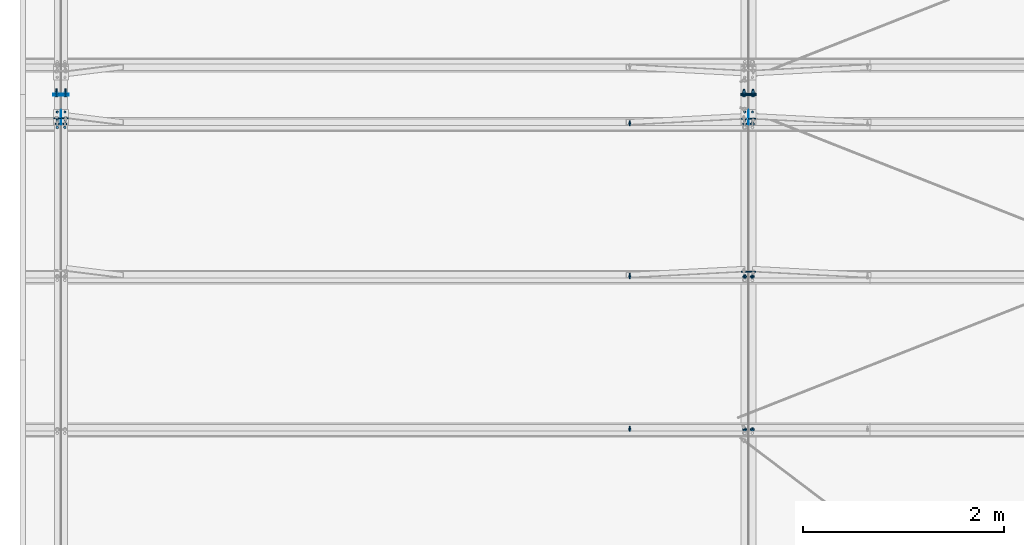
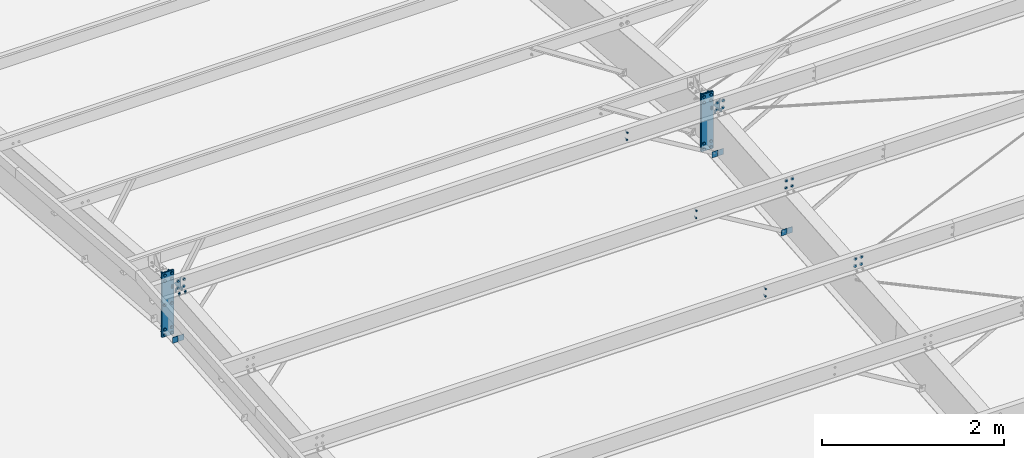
# One storey, part 70 of 185: 19 mechanical fasteners, 12 discrete accessories, 12 elements without a shape of their own.
"""IFC2X3 building model written with IfcOpenShell, lengths in millimetres."""

from ifc_helpers import new_model, si_unit, frame, origin_with_axes, origin_2d_with_axis, place, context, subcontext, project, spatial, polyline, rectangle, circle, outline, extrude, source, transform, mapped, material, type_object, element, aggregate, save


model = new_model("IFC2X3")

# Units and contexts
model_context = context("Model", 3, precision=1e-05, world=origin_with_axes())
body_context = subcontext(model_context, "Body", "Model", "MODEL_VIEW")
ifc_project = project(units=[si_unit("LENGTHUNIT", "METRE", prefix="MILLI"), si_unit("AREAUNIT", "SQUARE_METRE"), si_unit("VOLUMEUNIT", "CUBIC_METRE"), si_unit("MASSUNIT", "GRAM", prefix="KILO"), si_unit("TIMEUNIT", "SECOND"), si_unit("PLANEANGLEUNIT", "RADIAN"), si_unit("SOLIDANGLEUNIT", "STERADIAN"), si_unit("THERMODYNAMICTEMPERATUREUNIT", "DEGREE_CELSIUS"), si_unit("LUMINOUSINTENSITYUNIT", "LUMEN")], contexts=[model_context])

# Site, building, storey
site_placement = place(None, origin_with_axes())
site = spatial("IfcSite", under=ifc_project, at=site_placement, Name="Undefined", CompositionType="ELEMENT")
building_placement = place(site_placement, origin_with_axes())
building = spatial("IfcBuilding", under=site, at=building_placement, Name="Undefined", CompositionType="ELEMENT")
storey_placement = place(building_placement, origin_with_axes())
storey = spatial("IfcBuildingStorey", under=building, at=storey_placement, Name="Undefined", CompositionType="ELEMENT", Elevation=0.0)

# Assembly, mechanical fasteners
assembly_1_placement = place(storey_placement, origin_with_axes())
assembly_1 = element("IfcElementAssembly", 1, at=assembly_1_placement, inside=storey, Name="Steel Assembly", AssemblyPlace="NOTDEFINED", PredefinedType="RIGID_FRAME")
ifc_material_1 = material(Name="Undefined")
discrete_accessory_type_1 = type_object("IfcDiscreteAccessoryType", Name="Bolt assembly")
shared_shape_1 = source(origin_with_axes(), body_context, "Body", "SweptSolid", [
    extrude(circle(Radius=7.14374971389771, at=origin_2d_with_axis()), frame((0.0, -1.59000001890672, 0.0), z_axis=(0.0, 1.0, 0.0), x_axis=(1.0, 0.0, 0.0)), (0.0, 0.0, 1.0), 3.3),
    extrude(circle(Radius=13.4937496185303, at=origin_2d_with_axis()), frame((0.0, -5.5587500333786, 0.0), z_axis=(0.0, 1.0, 0.0), x_axis=(1.0, 0.0, 0.0)), (0.0, 0.0, 1.0), 4.0),
    extrude(circle(Radius=22.2250003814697, at=origin_2d_with_axis()), frame((0.0, 1.5900000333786, 0.0), z_axis=(0.0, 1.0, 0.0), x_axis=(1.0, 0.0, 0.0)), (0.0, 0.0, 1.0), 7.9),
    extrude(outline(polyline([(12.8316099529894, 0.0), (6.4158049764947, 11.1125001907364), (-6.4158049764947, 11.1125001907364), (-12.8316099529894, 0.0), (-6.4158049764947, -11.1125001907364), (6.4158049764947, -11.1125001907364), (12.8316099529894, 0.0)])), frame((0.0, 9.5275000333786, 0.0), z_axis=(0.0, 1.0, 0.0), x_axis=(1.0, 0.0, 0.0)), (0.0, 0.0, 1.0), 12.3),
])
mechanical_fastener_1_placement = place(assembly_1_placement, frame((444.500000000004, 15702.4719876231, 7353.56325125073), z_axis=(1.0, 0.0, 0.0), x_axis=(0.0, 0.0830454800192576, -0.996545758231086)))
mechanical_fastener_1 = element("IfcMechanicalFastener", 2, at=mechanical_fastener_1_placement, type_object=discrete_accessory_type_1, material=ifc_material_1, Name="Bolt assembly", NominalDiameter=12.6999998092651, NominalLength=38.0999984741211, context=body_context, shape_type="MappedRepresentation", body=[
    mapped(shared_shape_1, transform((0.0, 0.0, 0.0))),
    mapped(shared_shape_1, transform((101.599998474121, 0.0, 0.0))),
])
mechanical_fastener_2_placement = place(assembly_1_placement, frame((368.300000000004, 15702.4719876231, 7353.56325125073), z_axis=(1.0, 0.0, 0.0), x_axis=(0.0, 0.0830454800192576, -0.996545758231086)))
mechanical_fastener_2 = element("IfcMechanicalFastener", 3, at=mechanical_fastener_2_placement, type_object=discrete_accessory_type_1, material=ifc_material_1, Name="Bolt assembly", NominalDiameter=12.6999998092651, NominalLength=38.0999984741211, context=body_context, shape_type="MappedRepresentation", body=[
    mapped(shared_shape_1, transform((0.0, 0.0, 0.0))),
    mapped(shared_shape_1, transform((101.599998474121, 0.0, 0.0))),
])
mechanical_fastener_3_placement = place(assembly_1_placement, frame((7277.1, 15702.4719876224, 7353.56325123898), z_axis=(1.0, 0.0, 0.0), x_axis=(0.0, 0.0830454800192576, -0.996545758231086)))
mechanical_fastener_3 = element("IfcMechanicalFastener", 4, at=mechanical_fastener_3_placement, type_object=discrete_accessory_type_1, material=ifc_material_1, Name="Bolt assembly", NominalDiameter=12.6999998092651, NominalLength=38.0999984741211, context=body_context, shape_type="MappedRepresentation", body=[
    mapped(shared_shape_1, transform((0.0, 0.0, 0.0))),
    mapped(shared_shape_1, transform((101.599998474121, 0.0, 0.0))),
])

# Assembly, mechanical fastener
assembly_2_placement = place(storey_placement, origin_with_axes())
assembly_2 = element("IfcElementAssembly", 5, at=assembly_2_placement, inside=storey, Name="Steel Assembly", AssemblyPlace="NOTDEFINED", PredefinedType="RIGID_FRAME")
mechanical_fastener_4_placement = place(assembly_2_placement, frame((7200.9, 15702.47198762, 7353.56325123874), z_axis=(1.0, 0.0, 0.0), x_axis=(0.0, 0.0830454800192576, -0.996545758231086)))
mechanical_fastener_4 = element("IfcMechanicalFastener", 6, at=mechanical_fastener_4_placement, type_object=discrete_accessory_type_1, material=ifc_material_1, Name="Bolt assembly", NominalDiameter=12.6999998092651, NominalLength=38.0999984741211, context=body_context, shape_type="MappedRepresentation", body=[
    mapped(shared_shape_1, transform((0.0, 0.0, 0.0))),
    mapped(shared_shape_1, transform((101.599998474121, 0.0, 0.0))),
])

assembly_3_placement = place(storey_placement, origin_with_axes())
assembly_3 = element("IfcElementAssembly", 7, at=assembly_3_placement, inside=storey, Name="Steel Assembly", AssemblyPlace="NOTDEFINED", PredefinedType="RIGID_FRAME")
mechanical_fastener_5_placement = place(assembly_3_placement, frame((7277.1, 14183.7362520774, 7227.00193968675), z_axis=(1.0, 0.0, 0.0), x_axis=(0.0, 0.0830454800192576, -0.996545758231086)))
mechanical_fastener_5 = element("IfcMechanicalFastener", 8, at=mechanical_fastener_5_placement, type_object=discrete_accessory_type_1, material=ifc_material_1, Name="Bolt assembly", NominalDiameter=12.6999998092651, NominalLength=38.0999984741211, context=body_context, shape_type="MappedRepresentation", body=[
    mapped(shared_shape_1, transform((0.0, 0.0, 0.0))),
    mapped(shared_shape_1, transform((101.599998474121, 0.0, 0.0))),
])
aggregate(assembly_3, [mechanical_fastener_5])

assembly_4_placement = place(storey_placement, origin_with_axes())
assembly_4 = element("IfcElementAssembly", 9, at=assembly_4_placement, inside=storey, Name="Steel Assembly", AssemblyPlace="NOTDEFINED", PredefinedType="RIGID_FRAME")
mechanical_fastener_6_placement = place(assembly_4_placement, frame((7200.9, 14183.7362520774, 7227.00193968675), z_axis=(1.0, 0.0, 0.0), x_axis=(0.0, 0.0830454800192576, -0.996545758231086)))
mechanical_fastener_6 = element("IfcMechanicalFastener", 10, at=mechanical_fastener_6_placement, type_object=discrete_accessory_type_1, material=ifc_material_1, Name="Bolt assembly", NominalDiameter=12.6999998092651, NominalLength=38.0999984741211, context=body_context, shape_type="MappedRepresentation", body=[
    mapped(shared_shape_1, transform((0.0, 0.0, 0.0))),
    mapped(shared_shape_1, transform((101.599998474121, 0.0, 0.0))),
])

assembly_5_placement = place(storey_placement, origin_with_axes())
assembly_5 = element("IfcElementAssembly", 11, at=assembly_5_placement, inside=storey, Name="Steel Assembly", AssemblyPlace="NOTDEFINED", PredefinedType="RIGID_FRAME")
mechanical_fastener_7_placement = place(assembly_5_placement, frame((7277.1, 12665.0005165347, 7100.44062813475), z_axis=(1.0, 0.0, 0.0), x_axis=(0.0, 0.0830454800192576, -0.996545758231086)))
mechanical_fastener_7 = element("IfcMechanicalFastener", 12, at=mechanical_fastener_7_placement, type_object=discrete_accessory_type_1, material=ifc_material_1, Name="Bolt assembly", NominalDiameter=12.6999998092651, NominalLength=38.0999984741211, context=body_context, shape_type="MappedRepresentation", body=[
    mapped(shared_shape_1, transform((0.0, 0.0, 0.0))),
    mapped(shared_shape_1, transform((101.599998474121, 0.0, 0.0))),
])
aggregate(assembly_5, [mechanical_fastener_7])

assembly_6_placement = place(storey_placement, origin_with_axes())
assembly_6 = element("IfcElementAssembly", 13, at=assembly_6_placement, inside=storey, Name="Steel Assembly", AssemblyPlace="NOTDEFINED", PredefinedType="RIGID_FRAME")
mechanical_fastener_8_placement = place(assembly_6_placement, frame((7200.9, 12665.0005165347, 7100.44062813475), z_axis=(1.0, 0.0, 0.0), x_axis=(0.0, 0.0830454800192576, -0.996545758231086)))
mechanical_fastener_8 = element("IfcMechanicalFastener", 14, at=mechanical_fastener_8_placement, type_object=discrete_accessory_type_1, material=ifc_material_1, Name="Bolt assembly", NominalDiameter=12.6999998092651, NominalLength=38.0999984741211, context=body_context, shape_type="MappedRepresentation", body=[
    mapped(shared_shape_1, transform((0.0, 0.0, 0.0))),
    mapped(shared_shape_1, transform((101.599998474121, 0.0, 0.0))),
])

# Assembly, discrete accessory
assembly_7_placement = place(storey_placement, origin_with_axes())
assembly_7 = element("IfcElementAssembly", 15, at=assembly_7_placement, inside=storey, Name="Steel Assembly", AssemblyPlace="NOTDEFINED", PredefinedType="RIGID_FRAME")
ifc_material_2 = material(Name="STEEL/55")
discrete_accessory_type_2 = type_object("IfcDiscreteAccessoryType", Name="PLATE")
discrete_accessory_1_placement = place(assembly_7_placement, frame((7239.0, 15853.8182223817, 7219.61919678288), z_axis=(-1.0, 0.0, 0.0), x_axis=(0.0, -0.996545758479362, -0.0830454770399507)))
discrete_accessory_1 = element("IfcDiscreteAccessory", 16, at=discrete_accessory_1_placement, type_object=discrete_accessory_type_2, material=ifc_material_2, Name="PLATE", ObjectType="FL1/4\"X5 1/4\"", context=body_context, shape_type="SweptSolid", body=[
    extrude(outline(polyline([(0.0, 0.0), (133.350006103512, 3.70164343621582e-10), (133.350006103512, 190.500000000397), (0.0, 0.0)])), frame((0.0, -9.09494701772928e-13, -3.2), z_axis=(0.0, 0.0, 1.0), x_axis=(1.0, 0.0, 0.0)), (0.0, 0.0, 1.0), 6.4),
])

assembly_8_placement = place(storey_placement, origin_with_axes())
assembly_8 = element("IfcElementAssembly", 17, at=assembly_8_placement, inside=storey, Name="Steel Assembly", AssemblyPlace="NOTDEFINED", PredefinedType="RIGID_FRAME")
discrete_accessory_2_placement = place(assembly_8_placement, frame((406.400000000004, 15853.8182223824, 7219.61919679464), z_axis=(-1.0, 0.0, 0.0), x_axis=(0.0, -0.996545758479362, -0.0830454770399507)))
discrete_accessory_2 = element("IfcDiscreteAccessory", 18, at=discrete_accessory_2_placement, type_object=discrete_accessory_type_2, material=ifc_material_2, Name="PLATE", ObjectType="FL1/4\"X5 1/4\"", context=body_context, shape_type="SweptSolid", body=[
    extrude(outline(polyline([(0.0, 0.0), (133.350006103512, 3.70164343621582e-10), (133.350006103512, 190.500000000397), (0.0, 0.0)])), frame((0.0, -9.09494701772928e-13, -3.2), z_axis=(0.0, 0.0, 1.0), x_axis=(1.0, 0.0, 0.0)), (0.0, 0.0, 1.0), 6.4),
])

# Assembly, discrete accessories
assembly_9_placement = place(storey_placement, origin_with_axes())
assembly_9 = element("IfcElementAssembly", 19, at=assembly_9_placement, inside=storey, Name="Steel Assembly", AssemblyPlace="NOTDEFINED", PredefinedType="RIGID_FRAME")
discrete_accessory_type_3 = type_object("IfcDiscreteAccessoryType", Name="FLANGE BRACE FLIP")
discrete_accessory_3_placement = place(assembly_9_placement, frame((408.108150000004, 15769.4557659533, 6529.19086765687), z_axis=(0.0, -0.0830454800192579, 0.996545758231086), x_axis=(1.0, 0.0, 0.0)))
discrete_accessory_3 = element("IfcDiscreteAccessory", 20, at=discrete_accessory_3_placement, type_object=discrete_accessory_type_3, material=ifc_material_2, Name="FLANGE BRACE FLIP", ObjectType="PL1/8\"X2 3/4\"", context=body_context, shape_type="SweptSolid", body=[
    extrude(rectangle(XDim=3.416, YDim=85.725, at=origin_2d_with_axis()), frame((69.8499999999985, 0.0, 0.0), z_axis=(-1.0, 0.0, 0.0), x_axis=(0.0, -1.0, 0.0)), (0.0, 0.0, 1.0), 69.9),
])
discrete_accessory_4_placement = place(assembly_9_placement, frame((404.691850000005, 15769.4557659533, 6529.19086765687), z_axis=(0.0, -0.0830454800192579, 0.996545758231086), x_axis=(-1.0, 0.0, 0.0)))
discrete_accessory_4 = element("IfcDiscreteAccessory", 21, at=discrete_accessory_4_placement, type_object=discrete_accessory_type_3, material=ifc_material_2, Name="FLANGE BRACE FLIP", ObjectType="PL1/8\"X2 3/4\"", context=body_context, shape_type="SweptSolid", body=[
    extrude(rectangle(XDim=3.416, YDim=85.725, at=origin_2d_with_axis()), frame((69.8499999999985, 0.0, 0.0), z_axis=(-1.0, 0.0, 0.0), x_axis=(0.0, -1.0, 0.0)), (0.0, 0.0, 1.0), 69.9),
])

assembly_10_placement = place(storey_placement, origin_with_axes())
assembly_10 = element("IfcElementAssembly", 22, at=assembly_10_placement, inside=storey, Name="Steel Assembly", AssemblyPlace="NOTDEFINED", PredefinedType="RIGID_FRAME")
discrete_accessory_5_placement = place(assembly_10_placement, frame((7240.70815, 15761.1512342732, 6628.84524774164), z_axis=(0.0, -0.0830454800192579, 0.996545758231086), x_axis=(1.0, 0.0, 0.0)))
discrete_accessory_5 = element("IfcDiscreteAccessory", 23, at=discrete_accessory_5_placement, type_object=discrete_accessory_type_3, material=ifc_material_2, Name="FLANGE BRACE FLIP", ObjectType="PL1/8\"X2 3/4\"", context=body_context, shape_type="SweptSolid", body=[
    extrude(rectangle(XDim=3.416, YDim=85.725, at=origin_2d_with_axis()), frame((69.8499999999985, 0.0, 0.0), z_axis=(-1.0, 0.0, 0.0), x_axis=(0.0, -1.0, 0.0)), (0.0, 0.0, 1.0), 69.9),
])
discrete_accessory_6_placement = place(assembly_10_placement, frame((7237.29185, 15761.1512342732, 6628.84524774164), z_axis=(0.0, -0.0830454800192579, 0.996545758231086), x_axis=(-1.0, 0.0, 0.0)))
discrete_accessory_6 = element("IfcDiscreteAccessory", 24, at=discrete_accessory_6_placement, type_object=discrete_accessory_type_3, material=ifc_material_2, Name="FLANGE BRACE FLIP", ObjectType="PL1/8\"X2 3/4\"", context=body_context, shape_type="SweptSolid", body=[
    extrude(rectangle(XDim=3.416, YDim=85.725, at=origin_2d_with_axis()), frame((69.8499999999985, 0.0, 0.0), z_axis=(-1.0, 0.0, 0.0), x_axis=(0.0, -1.0, 0.0)), (0.0, 0.0, 1.0), 69.9),
])
discrete_accessory_7_placement = place(assembly_10_placement, frame((7240.70815, 14242.4154987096, 6502.28393644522), z_axis=(0.0, -0.0830454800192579, 0.996545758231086), x_axis=(1.0, 0.0, 0.0)))
discrete_accessory_7 = element("IfcDiscreteAccessory", 25, at=discrete_accessory_7_placement, type_object=discrete_accessory_type_3, material=ifc_material_2, Name="FLANGE BRACE FLIP", ObjectType="PL1/8\"X2 3/4\"", context=body_context, shape_type="SweptSolid", body=[
    extrude(rectangle(XDim=3.416, YDim=85.725, at=origin_2d_with_axis()), frame((69.8499999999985, 0.0, 0.0), z_axis=(-1.0, 0.0, 0.0), x_axis=(0.0, -1.0, 0.0)), (0.0, 0.0, 1.0), 69.9),
])
discrete_accessory_8_placement = place(assembly_10_placement, frame((7237.29185, 14242.4154987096, 6502.28393644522), z_axis=(0.0, -0.0830454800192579, 0.996545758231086), x_axis=(-1.0, 0.0, 0.0)))
discrete_accessory_8 = element("IfcDiscreteAccessory", 26, at=discrete_accessory_8_placement, type_object=discrete_accessory_type_3, material=ifc_material_2, Name="FLANGE BRACE FLIP", ObjectType="PL1/8\"X2 3/4\"", context=body_context, shape_type="SweptSolid", body=[
    extrude(rectangle(XDim=3.416, YDim=85.725, at=origin_2d_with_axis()), frame((69.8499999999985, 0.0, 0.0), z_axis=(-1.0, 0.0, 0.0), x_axis=(0.0, -1.0, 0.0)), (0.0, 0.0, 1.0), 69.9),
])

# Mechanical fastener
shared_shape_2 = source(origin_with_axes(), body_context, "Body", "SweptSolid", [
    extrude(circle(Radius=7.14374971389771, at=origin_2d_with_axis()), frame((0.0, -1.69000003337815, 0.0), z_axis=(0.0, 1.0, 0.0), x_axis=(1.0, 0.0, 0.0)), (0.0, 0.0, 1.0), 3.3),
    extrude(circle(Radius=7.14374971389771, at=origin_2d_with_axis()), frame((0.0, -1.4900000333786, 0.0), z_axis=(0.0, 1.0, 0.0), x_axis=(1.0, 0.0, 0.0)), (0.0, 0.0, 1.0), 3.2),
    extrude(outline(polyline([(10.9985221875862, 0.0), (5.4992610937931, 9.52499961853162), (-5.4992610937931, 9.52499961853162), (-10.9985221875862, 0.0), (-5.4992610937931, -9.52499961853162), (5.4992610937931, -9.52499961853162), (10.9985221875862, 0.0)])), frame((0.0, -11.1149996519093, 0.0), z_axis=(0.0, 1.0, 0.0), x_axis=(1.0, 0.0, 0.0)), (0.0, 0.0, 1.0), 9.5),
    extrude(circle(Radius=6.34999990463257, at=origin_2d_with_axis()), frame((0.0, -1.59000001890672, 0.0), z_axis=(0.0, 1.0, 0.0), x_axis=(1.0, 0.0, 0.0)), (0.0, 0.0, 1.0), 38.1),
    extrude(outline(polyline([(12.8316099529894, 0.0), (6.4158049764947, 11.1125001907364), (-6.4158049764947, 11.1125001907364), (-12.8316099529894, 0.0), (-6.4158049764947, -11.1125001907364), (6.4158049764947, -11.1125001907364), (12.8316099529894, 0.0)])), frame((0.0, 1.5900000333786, 0.0), z_axis=(0.0, 1.0, 0.0), x_axis=(1.0, 0.0, 0.0)), (0.0, 0.0, 1.0), 12.3),
])
mechanical_fastener_9_placement = place(assembly_2_placement, frame((6057.9, 15702.4719876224, 7353.56325123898), z_axis=(1.0, 0.0, 0.0), x_axis=(0.0, 0.0830454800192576, -0.996545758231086)))
mechanical_fastener_9 = element("IfcMechanicalFastener", 27, at=mechanical_fastener_9_placement, type_object=discrete_accessory_type_1, material=ifc_material_1, Name="Bolt assembly", NominalDiameter=12.6999998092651, NominalLength=38.0999984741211, context=body_context, shape_type="MappedRepresentation", body=[
    mapped(shared_shape_2, transform((0.0, 0.0, 0.0))),
    mapped(shared_shape_2, transform((101.599998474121, 0.0, 0.0))),
])

aggregate(assembly_2, [mechanical_fastener_9, mechanical_fastener_4])

mechanical_fastener_10_placement = place(assembly_6_placement, frame((6057.9, 12665.0005165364, 7100.44062813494), z_axis=(1.0, 0.0, 0.0), x_axis=(0.0, 0.0830454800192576, -0.996545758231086)))
mechanical_fastener_10 = element("IfcMechanicalFastener", 28, at=mechanical_fastener_10_placement, type_object=discrete_accessory_type_1, material=ifc_material_1, Name="Bolt assembly", NominalDiameter=12.6999998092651, NominalLength=38.0999984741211, context=body_context, shape_type="MappedRepresentation", body=[
    mapped(shared_shape_2, transform((0.0, 0.0, 0.0))),
    mapped(shared_shape_2, transform((101.599998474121, 0.0, 0.0))),
])

aggregate(assembly_6, [mechanical_fastener_10, mechanical_fastener_8])

mechanical_fastener_11_placement = place(assembly_4_placement, frame((6057.9, 14183.7362520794, 7227.00193968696), z_axis=(1.0, 0.0, 0.0), x_axis=(0.0, 0.0830454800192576, -0.996545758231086)))
mechanical_fastener_11 = element("IfcMechanicalFastener", 29, at=mechanical_fastener_11_placement, type_object=discrete_accessory_type_1, material=ifc_material_1, Name="Bolt assembly", NominalDiameter=12.6999998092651, NominalLength=38.0999984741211, context=body_context, shape_type="MappedRepresentation", body=[
    mapped(shared_shape_2, transform((0.0, 0.0, 0.0))),
    mapped(shared_shape_2, transform((101.599998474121, 0.0, 0.0))),
])

aggregate(assembly_4, [mechanical_fastener_11, mechanical_fastener_6])

shared_shape_3 = source(origin_with_axes(), body_context, "Body", "SweptSolid", [
    extrude(circle(Radius=7.14374971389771, at=origin_2d_with_axis()), frame((0.0, -0.0238014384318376, 0.0), z_axis=(0.0, 1.0, 0.0), x_axis=(1.0, 0.0, 0.0)), (0.0, 0.0, 1.0), 8.0),
    extrude(circle(Radius=7.14374971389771, at=origin_2d_with_axis()), frame((0.0, -6.24999999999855, 0.0), z_axis=(0.0, 1.0, 0.0), x_axis=(1.0, 0.0, 0.0)), (0.0, 0.0, 1.0), 6.4),
    extrude(outline(polyline([(10.9985221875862, 0.0), (5.4992610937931, 9.52499961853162), (-5.4992610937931, 9.52499961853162), (-10.9985221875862, 0.0), (-5.4992610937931, -9.52499961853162), (5.4992610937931, -9.52499961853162), (10.9985221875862, 0.0)])), frame((0.0, -15.8750000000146, 0.0), z_axis=(0.0, 1.0, 0.0), x_axis=(1.0, 0.0, 0.0)), (0.0, 0.0, 1.0), 9.5),
    extrude(circle(Radius=6.34999990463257, at=origin_2d_with_axis()), frame((0.0, -6.34999953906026, 0.0), z_axis=(0.0, 1.0, 0.0), x_axis=(1.0, 0.0, 0.0)), (0.0, 0.0, 1.0), 38.1),
    extrude(outline(polyline([(12.8316099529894, 0.0), (6.4158049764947, 11.1125001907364), (-6.4158049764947, 11.1125001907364), (-12.8316099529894, 0.0), (-6.4158049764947, -11.1125001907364), (6.4158049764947, -11.1125001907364), (12.8316099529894, 0.0)])), frame((0.0, 7.95019856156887, 0.0), z_axis=(0.0, 1.0, 0.0), x_axis=(1.0, 0.0, 0.0)), (0.0, 0.0, 1.0), 12.3),
])
mechanical_fastener_12_placement = place(assembly_7_placement, frame((7239.0, 15753.0965121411, 7204.85371046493), z_axis=(-1.0, 0.0, 0.0), x_axis=(0.0, 0.996545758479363, 0.0830454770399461)))
mechanical_fastener_12 = element("IfcMechanicalFastener", 30, at=mechanical_fastener_12_placement, type_object=discrete_accessory_type_1, material=ifc_material_1, Name="Bolt assembly", NominalDiameter=12.6999998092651, NominalLength=38.0999984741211, context=body_context, shape_type="MappedRepresentation", body=[
    mapped(shared_shape_3, transform((0.0, 0.0, -38.0999984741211))),
    mapped(shared_shape_3, transform((76.1999969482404, -1.38243194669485e-10, -38.0999984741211))),
    mapped(shared_shape_3, transform((0.0, 0.0, 38.0999984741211))),
    mapped(shared_shape_3, transform((76.1999969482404, -1.38243194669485e-10, 38.0999984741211))),
])

aggregate(assembly_7, [mechanical_fastener_12, discrete_accessory_1])

shared_shape_4 = source(origin_with_axes(), body_context, "Body", "SweptSolid", [
    extrude(circle(Radius=10.3187494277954, at=origin_2d_with_axis()), frame((0.0, -0.1, 0.0), z_axis=(0.0, 1.0, 0.0), x_axis=(1.0, 0.0, 0.0)), (0.0, 0.0, 1.0), 9.6),
    extrude(circle(Radius=10.3187494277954, at=origin_2d_with_axis()), frame((0.0, -9.42500000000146, 0.0), z_axis=(0.0, 1.0, 0.0), x_axis=(1.0, 0.0, 0.0)), (0.0, 0.0, 1.0), 9.5),
    extrude(outline(polyline([(18.3308710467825, 0.0), (9.16543552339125, 15.8750000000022), (-9.16543552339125, 15.8750000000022), (-18.3308710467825, 0.0), (-9.16543552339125, -15.8750000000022), (9.16543552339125, -15.8750000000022), (18.3308710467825, 0.0)])), frame((0.0, -21.4312500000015, 0.0), z_axis=(0.0, 1.0, 0.0), x_axis=(1.0, 0.0, 0.0)), (0.0, 0.0, 1.0), 11.9),
    extrude(circle(Radius=9.52499961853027, at=origin_2d_with_axis()), frame((0.0, -9.52499961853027, 0.0), z_axis=(0.0, 1.0, 0.0), x_axis=(1.0, 0.0, 0.0)), (0.0, 0.0, 1.0), 69.8),
    extrude(circle(Radius=22.2250003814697, at=origin_2d_with_axis()), frame((0.0, 9.52499999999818, 0.0), z_axis=(0.0, 1.0, 0.0), x_axis=(1.0, 0.0, 0.0)), (0.0, 0.0, 1.0), 7.9),
    extrude(outline(polyline([(18.3308710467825, 0.0), (9.16543552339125, 15.8750000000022), (-9.16543552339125, 15.8750000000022), (-18.3308710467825, 0.0), (-9.16543552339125, -15.8750000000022), (9.16543552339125, -15.8750000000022), (18.3308710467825, 0.0)])), frame((0.0, 17.4624999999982, 0.0), z_axis=(0.0, 1.0, 0.0), x_axis=(1.0, 0.0, 0.0)), (0.0, 0.0, 1.0), 19.0),
])
mechanical_fastener_13_placement = place(assembly_9_placement, frame((406.400000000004, 16001.9999999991, 6862.03615600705), z_axis=(1.0, 0.0, 0.0), x_axis=(0.0, 0.0, -1.0)))
mechanical_fastener_13 = element("IfcMechanicalFastener", 31, at=mechanical_fastener_13_placement, type_object=discrete_accessory_type_1, material=ifc_material_1, Name="Bolt assembly", NominalDiameter=19.0499992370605, NominalLength=69.8499984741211, context=body_context, shape_type="MappedRepresentation", body=[
    mapped(shared_shape_4, transform((0.0, 0.0, -44.4500007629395))),
    mapped(shared_shape_4, transform((0.0, 0.0, 44.4500007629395))),
])

mechanical_fastener_14_placement = place(assembly_9_placement, frame((406.400000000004, 16001.9999999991, 6463.57365598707), z_axis=(-1.0, 0.0, 0.0), x_axis=(0.0, 0.0, 1.0)))
mechanical_fastener_14 = element("IfcMechanicalFastener", 32, at=mechanical_fastener_14_placement, type_object=discrete_accessory_type_1, material=ifc_material_1, Name="Bolt assembly", NominalDiameter=19.0499992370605, NominalLength=69.8499984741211, context=body_context, shape_type="MappedRepresentation", body=[
    mapped(shared_shape_4, transform((0.0, 0.0, -44.4500007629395))),
    mapped(shared_shape_4, transform((73.0250015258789, 0.0, -44.4500007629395))),
    mapped(shared_shape_4, transform((0.0, 0.0, 44.4500007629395))),
    mapped(shared_shape_4, transform((73.0250015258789, 0.0, 44.4500007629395))),
])

mechanical_fastener_15_placement = place(assembly_9_placement, frame((406.400000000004, 16001.9999999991, 7260.49865600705), z_axis=(1.0, 0.0, 0.0), x_axis=(0.0, 0.0, -1.0)))
mechanical_fastener_15 = element("IfcMechanicalFastener", 33, at=mechanical_fastener_15_placement, type_object=discrete_accessory_type_1, material=ifc_material_1, Name="Bolt assembly", NominalDiameter=19.0499992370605, NominalLength=69.8499984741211, context=body_context, shape_type="MappedRepresentation", body=[
    mapped(shared_shape_4, transform((0.0, 0.0, -44.4500007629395))),
    mapped(shared_shape_4, transform((73.0250015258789, 0.0, -44.4500007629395))),
    mapped(shared_shape_4, transform((0.0, 0.0, 44.4500007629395))),
    mapped(shared_shape_4, transform((73.0250015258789, 0.0, 44.4500007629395))),
])

shared_shape_5 = source(origin_with_axes(), body_context, "Body", "SweptSolid", [
    extrude(circle(Radius=10.3187494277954, at=origin_2d_with_axis()), frame((0.0, -0.1, 0.0), z_axis=(0.0, 1.0, 0.0), x_axis=(1.0, 0.0, 0.0)), (0.0, 0.0, 1.0), 12.8),
    extrude(circle(Radius=10.3187494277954, at=origin_2d_with_axis()), frame((0.0, -12.5999999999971, 0.0), z_axis=(0.0, 1.0, 0.0), x_axis=(1.0, 0.0, 0.0)), (0.0, 0.0, 1.0), 12.7),
    extrude(outline(polyline([(18.3308710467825, 0.0), (9.16543552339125, 15.8750000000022), (-9.16543552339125, 15.8750000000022), (-18.3308710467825, 0.0), (-9.16543552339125, -15.8750000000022), (9.16543552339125, -15.8750000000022), (18.3308710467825, 0.0)])), frame((0.0, -24.6062499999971, 0.0), z_axis=(0.0, 1.0, 0.0), x_axis=(1.0, 0.0, 0.0)), (0.0, 0.0, 1.0), 11.9),
    extrude(circle(Radius=9.52499961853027, at=origin_2d_with_axis()), frame((0.0, -12.6999999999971, 0.0), z_axis=(0.0, 1.0, 0.0), x_axis=(1.0, 0.0, 0.0)), (0.0, 0.0, 1.0), 69.8),
    extrude(circle(Radius=22.2250003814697, at=origin_2d_with_axis()), frame((0.0, 12.6999999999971, 0.0), z_axis=(0.0, 1.0, 0.0), x_axis=(1.0, 0.0, 0.0)), (0.0, 0.0, 1.0), 7.9),
    extrude(outline(polyline([(18.3308710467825, 0.0), (9.16543552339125, 15.8750000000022), (-9.16543552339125, 15.8750000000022), (-18.3308710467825, 0.0), (-9.16543552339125, -15.8750000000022), (9.16543552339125, -15.8750000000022), (18.3308710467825, 0.0)])), frame((0.0, 20.6374999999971, 0.0), z_axis=(0.0, 1.0, 0.0), x_axis=(1.0, 0.0, 0.0)), (0.0, 0.0, 1.0), 19.0),
])
mechanical_fastener_16_placement = place(assembly_10_placement, frame((7239.0, 16001.9999999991, 6561.9804128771), z_axis=(-1.0, 0.0, 0.0), x_axis=(0.0, 0.0, 1.0)))
mechanical_fastener_16 = element("IfcMechanicalFastener", 34, at=mechanical_fastener_16_placement, type_object=discrete_accessory_type_1, material=ifc_material_1, Name="Bolt assembly", NominalDiameter=19.0499992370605, NominalLength=69.8499984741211, context=body_context, shape_type="MappedRepresentation", body=[
    mapped(shared_shape_5, transform((0.0, 0.0, -44.4500007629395))),
    mapped(shared_shape_5, transform((76.1999969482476, 0.0, -44.4500007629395))),
    mapped(shared_shape_5, transform((0.0, 0.0, 44.4500007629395))),
    mapped(shared_shape_5, transform((76.1999969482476, 0.0, 44.4500007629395))),
])

mechanical_fastener_17_placement = place(assembly_10_placement, frame((7239.0, 16001.9999999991, 7262.06791218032), z_axis=(1.0, 0.0, 0.0), x_axis=(0.0, 0.0, -1.0)))
mechanical_fastener_17 = element("IfcMechanicalFastener", 35, at=mechanical_fastener_17_placement, type_object=discrete_accessory_type_1, material=ifc_material_1, Name="Bolt assembly", NominalDiameter=19.0499992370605, NominalLength=69.8499984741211, context=body_context, shape_type="MappedRepresentation", body=[
    mapped(shared_shape_5, transform((0.0, 0.0, -44.4500007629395))),
    mapped(shared_shape_5, transform((76.1999969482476, 0.0, -44.4500007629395))),
    mapped(shared_shape_5, transform((0.0, 0.0, 44.4500007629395))),
    mapped(shared_shape_5, transform((76.1999969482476, 0.0, 44.4500007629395))),
])

shared_shape_6 = source(origin_with_axes(), body_context, "Body", "SweptSolid", [
    extrude(circle(Radius=7.14374971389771, at=origin_2d_with_axis()), frame((0.0, -0.1, 0.0), z_axis=(0.0, 1.0, 0.0), x_axis=(1.0, 0.0, 0.0)), (0.0, 0.0, 1.0), 6.5),
    extrude(circle(Radius=7.14374971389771, at=origin_2d_with_axis()), frame((0.0, -6.24999999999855, 0.0), z_axis=(0.0, 1.0, 0.0), x_axis=(1.0, 0.0, 0.0)), (0.0, 0.0, 1.0), 6.4),
    extrude(outline(polyline([(10.9985221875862, 0.0), (5.4992610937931, 9.52499961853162), (-5.4992610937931, 9.52499961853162), (-10.9985221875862, 0.0), (-5.4992610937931, -9.52499961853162), (5.4992610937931, -9.52499961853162), (10.9985221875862, 0.0)])), frame((0.0, -15.8750000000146, 0.0), z_axis=(0.0, 1.0, 0.0), x_axis=(1.0, 0.0, 0.0)), (0.0, 0.0, 1.0), 9.5),
    extrude(circle(Radius=6.34999990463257, at=origin_2d_with_axis()), frame((0.0, -6.34999953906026, 0.0), z_axis=(0.0, 1.0, 0.0), x_axis=(1.0, 0.0, 0.0)), (0.0, 0.0, 1.0), 38.1),
    extrude(outline(polyline([(12.8316099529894, 0.0), (6.4158049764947, 11.1125001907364), (-6.4158049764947, 11.1125001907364), (-12.8316099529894, 0.0), (-6.4158049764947, -11.1125001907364), (6.4158049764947, -11.1125001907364), (12.8316099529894, 0.0)])), frame((0.0, 6.35000000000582, 0.0), z_axis=(0.0, 1.0, 0.0), x_axis=(1.0, 0.0, 0.0)), (0.0, 0.0, 1.0), 12.3),
])
mechanical_fastener_18_placement = place(assembly_8_placement, frame((406.400000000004, 15753.0965121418, 7204.85371047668), z_axis=(-1.0, 0.0, 0.0), x_axis=(0.0, 0.996545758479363, 0.0830454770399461)))
mechanical_fastener_18 = element("IfcMechanicalFastener", 36, at=mechanical_fastener_18_placement, type_object=discrete_accessory_type_1, material=ifc_material_1, Name="Bolt assembly", NominalDiameter=12.6999998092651, NominalLength=38.0999984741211, context=body_context, shape_type="MappedRepresentation", body=[
    mapped(shared_shape_6, transform((0.0, 0.0, -38.0999984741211))),
    mapped(shared_shape_6, transform((76.1999969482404, -1.38243194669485e-10, -38.0999984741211))),
    mapped(shared_shape_6, transform((0.0, 0.0, 38.0999984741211))),
    mapped(shared_shape_6, transform((76.1999969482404, -1.38243194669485e-10, 38.0999984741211))),
])

aggregate(assembly_8, [mechanical_fastener_18, discrete_accessory_2])

shared_shape_7 = source(origin_with_axes(), body_context, "Body", "SweptSolid", [
    extrude(circle(Radius=7.14374971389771, at=origin_2d_with_axis()), frame((0.0, -0.1, 0.0), z_axis=(0.0, 1.0, 0.0), x_axis=(1.0, 0.0, 0.0)), (0.0, 0.0, 1.0), 6.5),
    extrude(circle(Radius=7.14374971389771, at=origin_2d_with_axis()), frame((0.0, -3.08000006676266, 0.0), z_axis=(0.0, 1.0, 0.0), x_axis=(1.0, 0.0, 0.0)), (0.0, 0.0, 1.0), 3.2),
    extrude(outline(polyline([(10.9985221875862, 0.0), (5.4992610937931, 9.52499961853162), (-5.4992610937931, 9.52499961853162), (-10.9985221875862, 0.0), (-5.4992610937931, -9.52499961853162), (5.4992610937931, -9.52499961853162), (10.9985221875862, 0.0)])), frame((0.0, -16.6737496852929, 0.0), z_axis=(0.0, 1.0, 0.0), x_axis=(1.0, 0.0, 0.0)), (0.0, 0.0, 1.0), 9.5),
    extrude(circle(Radius=6.34999990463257, at=origin_2d_with_axis()), frame((0.0, -7.14875006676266, 0.0), z_axis=(0.0, 1.0, 0.0), x_axis=(1.0, 0.0, 0.0)), (0.0, 0.0, 1.0), 38.1),
    extrude(circle(Radius=13.4937496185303, at=origin_2d_with_axis()), frame((0.0, -7.14875006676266, 0.0), z_axis=(0.0, 1.0, 0.0), x_axis=(1.0, 0.0, 0.0)), (0.0, 0.0, 1.0), 4.0),
    extrude(outline(polyline([(12.8316099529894, 0.0), (6.4158049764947, 11.1125001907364), (-6.4158049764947, 11.1125001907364), (-12.8316099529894, 0.0), (-6.4158049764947, -11.1125001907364), (6.4158049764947, -11.1125001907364), (12.8316099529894, 0.0)])), frame((0.0, 6.35000000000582, 0.0), z_axis=(0.0, 1.0, 0.0), x_axis=(1.0, 0.0, 0.0)), (0.0, 0.0, 1.0), 12.3),
])
mechanical_fastener_19_placement = place(assembly_1_placement, frame((406.400000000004, 15677.1597253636, 7198.52564491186), z_axis=(1.0, 0.0, 0.0), x_axis=(0.0, -0.996545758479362, -0.0830454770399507)))
mechanical_fastener_19 = element("IfcMechanicalFastener", 37, at=mechanical_fastener_19_placement, type_object=discrete_accessory_type_1, material=ifc_material_1, Name="Bolt assembly", NominalDiameter=12.6999998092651, NominalLength=38.0999984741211, context=body_context, shape_type="MappedRepresentation", body=[
    mapped(shared_shape_7, transform((0.0, 0.0, -38.0999984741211))),
    mapped(shared_shape_7, transform((0.0, 0.0, 38.0999984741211))),
])

aggregate(assembly_1, [mechanical_fastener_19, mechanical_fastener_1, mechanical_fastener_2, mechanical_fastener_3])

# Assembly, discrete accessory
assembly_11_placement = place(storey_placement, origin_with_axes())
assembly_11 = element("IfcElementAssembly", 38, at=assembly_11_placement, inside=storey, Name="Steel Assembly", AssemblyPlace="NOTDEFINED", PredefinedType="RIGID_FRAME")
discrete_accessory_type_4 = type_object("IfcDiscreteAccessoryType", Name="Rafter Ridge Plate")
discrete_accessory_9_placement = place(assembly_11_placement, frame((406.400000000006, 16006.7625000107, 7292.24865641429), z_axis=(-1.0, 0.0, 0.0), x_axis=(0.0, 0.0, -1.0)))
discrete_accessory_9 = element("IfcDiscreteAccessory", 39, at=discrete_accessory_9_placement, type_object=discrete_accessory_type_4, material=ifc_material_2, Name="Rafter Ridge Plate", ObjectType="FL3/8\"X6\"", context=body_context, shape_type="SweptSolid", body=[
    extrude(rectangle(XDim=9.525, YDim=152.4, at=origin_2d_with_axis()), frame((860.425000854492, 0.0, 0.0), z_axis=(-1.0, 0.0, 0.0), x_axis=(0.0, -1.0, 0.0)), (0.0, 0.0, 1.0), 860.4),
])
aggregate(assembly_11, [discrete_accessory_9])

# Discrete accessory
discrete_accessory_10_placement = place(assembly_9_placement, frame((406.400000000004, 15997.2374999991, 7292.24865643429), z_axis=(1.0, 0.0, 0.0), x_axis=(0.0, 0.0, -1.0)))
discrete_accessory_10 = element("IfcDiscreteAccessory", 40, at=discrete_accessory_10_placement, type_object=discrete_accessory_type_4, material=ifc_material_2, Name="Rafter Ridge Plate", ObjectType="FL3/8\"X6\"", context=body_context, shape_type="SweptSolid", body=[
    extrude(rectangle(XDim=9.525, YDim=152.4, at=origin_2d_with_axis()), frame((860.425000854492, 0.0, 0.0), z_axis=(-1.0, 0.0, 0.0), x_axis=(0.0, -1.0, 0.0)), (0.0, 0.0, 1.0), 860.4),
])

aggregate(assembly_9, [mechanical_fastener_13, discrete_accessory_3, discrete_accessory_4, mechanical_fastener_14, mechanical_fastener_15, discrete_accessory_10])

# Assembly, discrete accessory
assembly_12_placement = place(storey_placement, origin_with_axes())
assembly_12 = element("IfcElementAssembly", 41, at=assembly_12_placement, inside=storey, Name="Steel Assembly", AssemblyPlace="NOTDEFINED", PredefinedType="RIGID_FRAME")
discrete_accessory_11_placement = place(assembly_12_placement, frame((7239.0, 16008.3500000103, 7293.81790912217), z_axis=(-1.0, 0.0, 0.0), x_axis=(0.0, 0.0, -1.0)))
discrete_accessory_11 = element("IfcDiscreteAccessory", 42, at=discrete_accessory_11_placement, type_object=discrete_accessory_type_4, material=ifc_material_2, Name="Rafter Ridge Plate", ObjectType="FL1/2\"X6\"", context=body_context, shape_type="SweptSolid", body=[
    extrude(rectangle(XDim=12.7, YDim=152.4, at=origin_2d_with_axis()), frame((763.587493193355, 0.0, 0.0), z_axis=(-1.0, 0.0, 0.0), x_axis=(0.0, -1.0, 0.0)), (0.0, 0.0, 1.0), 763.6),
])
aggregate(assembly_12, [discrete_accessory_11])

# Discrete accessory
discrete_accessory_12_placement = place(assembly_10_placement, frame((7239.0, 15995.6499999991, 7293.81790912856), z_axis=(1.0, 0.0, 0.0), x_axis=(0.0, 0.0, -1.0)))
discrete_accessory_12 = element("IfcDiscreteAccessory", 43, at=discrete_accessory_12_placement, type_object=discrete_accessory_type_4, material=ifc_material_2, Name="Rafter Ridge Plate", ObjectType="FL1/2\"X6\"", context=body_context, shape_type="SweptSolid", body=[
    extrude(rectangle(XDim=12.7, YDim=152.4, at=origin_2d_with_axis()), frame((763.587493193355, 0.0, 0.0), z_axis=(-1.0, 0.0, 0.0), x_axis=(0.0, -1.0, 0.0)), (0.0, 0.0, 1.0), 763.6),
])

aggregate(assembly_10, [discrete_accessory_5, discrete_accessory_6, discrete_accessory_7, discrete_accessory_8, mechanical_fastener_16, mechanical_fastener_17, discrete_accessory_12])

save(model, "model.ifc")
